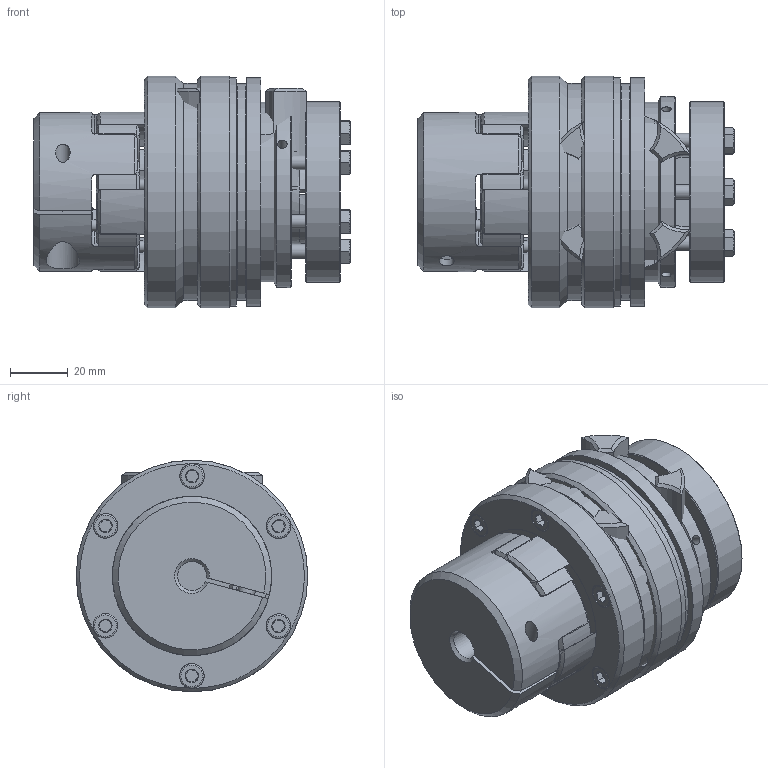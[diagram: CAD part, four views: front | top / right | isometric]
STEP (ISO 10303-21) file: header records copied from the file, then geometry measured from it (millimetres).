
FILE_DESCRIPTION( ( 'Unknown' ), '1' );
FILE_NAME( 'C:/Dokumente und Einstellungen/Sven/Desktop/hp kbk/E-KA/KBK EKA-24-98.stp', 'Unknown', ( 'Unknown' ), ( 'Unknown' ), 'XStep 1.0', 'Unknown', ' ' );
FILE_SCHEMA( ( 'automotive_design' ) );
Length unit declared in the file: millimetre
Products named in the file (17): Assem1; Assem2; ball_bearing_-_6007_0_01_0; ball_bearing_-_6007_0_02_0; ball_bearing_-_6007_0_03_0; Stellring 60_0; Druckring 60_0; Flansch 60_0; a_35_0; Elastomerflansch 24_0; Zahnkranz_24_Standard_0; ISO EN DIN 4762_M5x20_0; schraube_iso_7380-m6x16-12_9_3; KBK L-A-60 Grundkörper_0; Druckring L-A-60_0; din_en_24017_m5x20_0; KBE 2C - 24_Nabe_0
Bounding box: 109.15 x 80 x 80 mm (x, y, z)
Volume: 614745.3 mm3; surface area: 248883.2 mm2
Topology: 43 solids, 43 shells, 1132 faces, 2479 edges, 1526 vertices
Faces by surface type: plane 373, cone 367, cylinder 322, torus 68, bspline 2
Full cylindrical faces by diameter (mm): 2.5 x4, 3.242 x6, 4 x22, 4.134 x24, 5 x16, 5.2 x12, 5.5 x12, 6 x2, 6.5 x2, 6.88 x7, 8.5 x19, 11.5 x2, 15 x2, 27 x4, 30 x2, 33 x2, 35 x7, 35.937 x2, 43.7 x6, 44 x2, 46 x4, 46.5 x2, 53.6 x6, 55 x2, 61.3 x2, 62 x7, 62.5 x2, 66 x2, 75 x4, 79 x2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
Entity records: 12933 total; most frequent: CARTESIAN_POINT 3096, DIRECTION 2124, ORIENTED_EDGE 1694, AXIS2_PLACEMENT_3D 985, EDGE_CURVE 847, EDGE_LOOP 663, VERTEX_POINT 587, FACE_OUTER_BOUND 545
